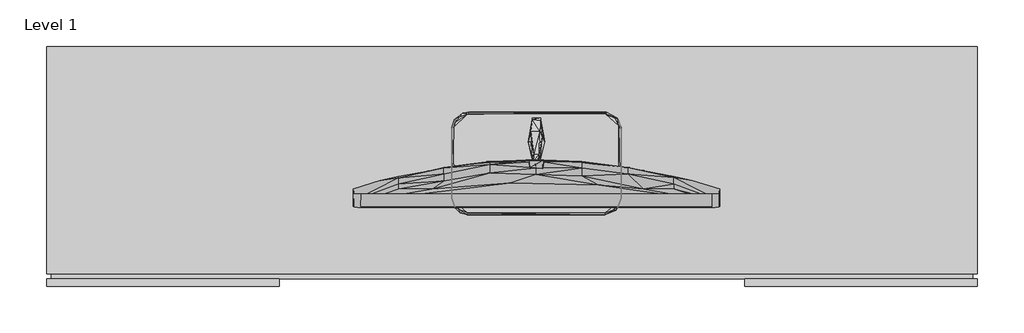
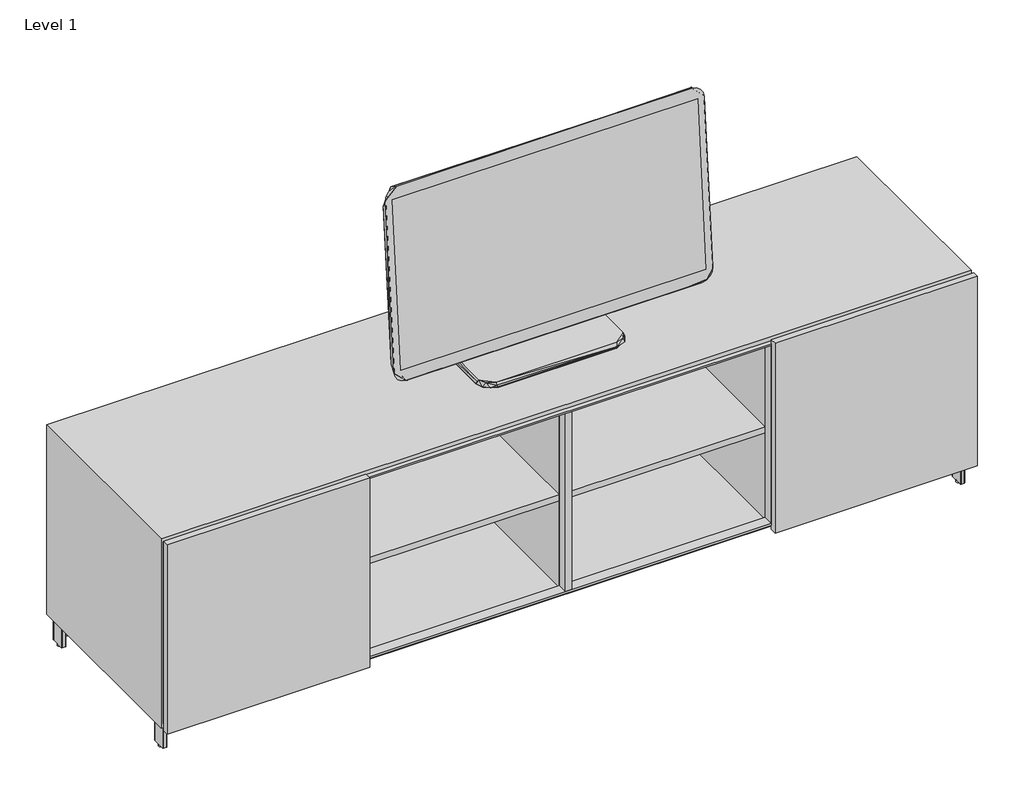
# One storey, incomplete: 2 furniture elements.
"""IFC4 building model written with IfcOpenShell, lengths in millimetres."""

from ifc_helpers import new_model, si_unit, origin, place, context, project, spatial, transform, mapped, element, save
from components import partial_open_96w_metal_base_f76c5528, widescreenmonitor_52dc5cf8

model = new_model("IFC4")

# Units and contexts
model_context = context("Model", 3, world=origin())
ifc_project = project(units=[si_unit("LENGTHUNIT", "METRE", prefix="MILLI")], contexts=[model_context])

# Site, building, storey
site = spatial("IfcSite", under=ifc_project)
building = spatial("IfcBuilding", under=site)
storey = spatial("IfcBuildingStorey", under=building, Name="Level 1", Elevation=0.0)

# Furniture
placement = place(None, origin())
partial_open_96w_metal_base_shape = partial_open_96w_metal_base_f76c5528(model_context)
element("IfcFurniture", 1, ObjectType="Steelcase Coalesse - Exponents - Storage - Credenza - 27H (1) : Partial Open - 96W - Metal Base", at=placement, inside=storey, context=model_context, shape_type="MappedRepresentation", body=[
    mapped(partial_open_96w_metal_base_shape, transform((-39778.9655411, -569299.4230302, 0.0), x_axis=(1.0, 0.0, 0.0), y_axis=(0.0, 1.0, 0.0), z_axis=(0.0, 0.0, 1.0))),
])
widescreenmonitor_shape = widescreenmonitor_52dc5cf8(model_context)
element("IfcFurniture", 2, ObjectType="WideScreenMonitor : 0.96 m x 0.271 m", at=placement, inside=storey, context=model_context, shape_type="MappedRepresentation", body=[
    mapped(widescreenmonitor_shape, transform((-38495.6146202, -568977.8044278, 685.8000171), x_axis=(1.0, 0.0, 0.0), y_axis=(0.0, 1.0, 0.0), z_axis=(0.0, 0.0, 1.0))),
])

save(model, "model.ifc")
